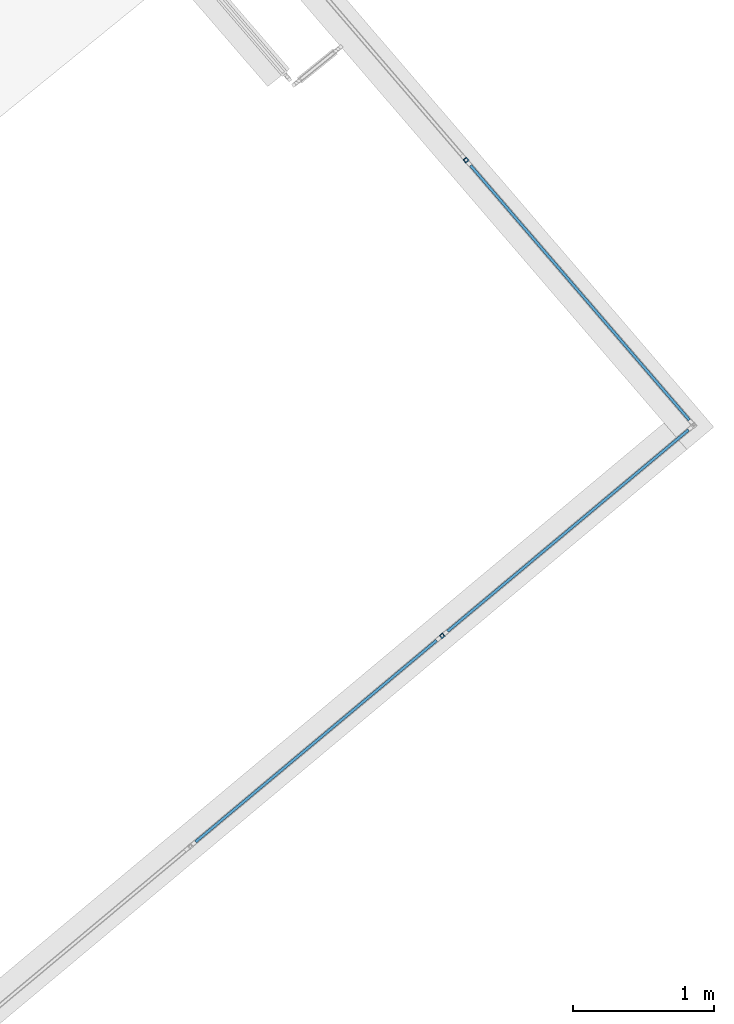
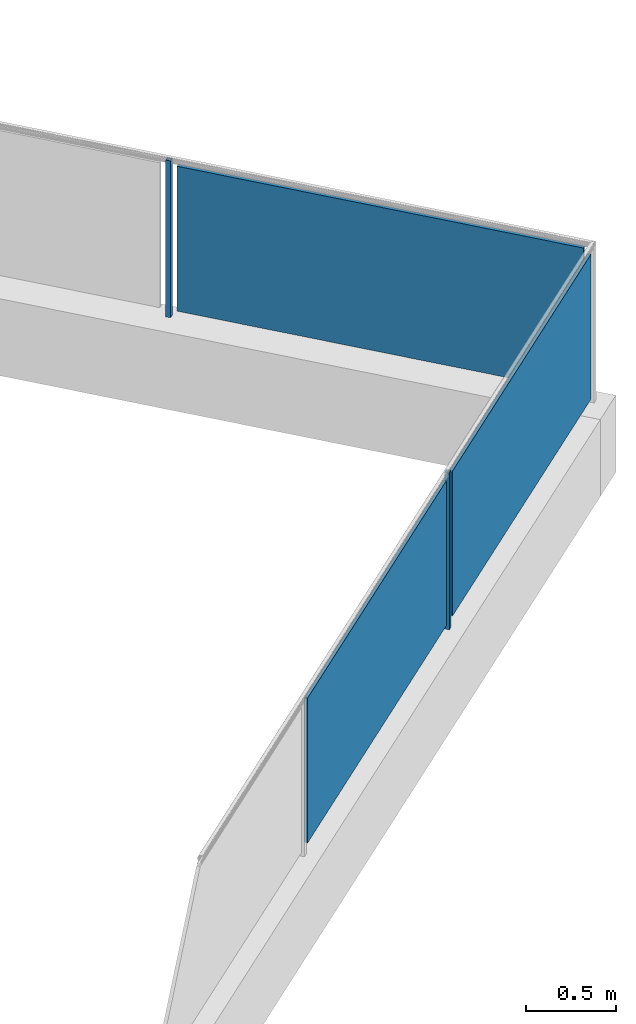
# One storey, part 48 of 75: 5 building element parts, 1 element without a shape of its own.
"""IFC4 building model written with IfcOpenShell, lengths in metres."""

from ifc_helpers import new_model, entity, si_unit, converted_unit, derived_unit, direction, frame, origin_with_axes, place, context, subcontext, project, spatial, polygons, material, type_object, element, aggregate, save


model = new_model("IFC4")

# Units and contexts
model_context = context("Model", 3, precision=1e-05, world=origin_with_axes(), true_north=direction((0.0, 1.0)))
body_context = subcontext(model_context, "Body", "Model", "MODEL_VIEW")
ifc_project = project(units=[si_unit("LENGTHUNIT", "METRE"), si_unit("AREAUNIT", "SQUARE_METRE"), si_unit("VOLUMEUNIT", "CUBIC_METRE"), converted_unit("PLANEANGLEUNIT", "DEGREE", entity("IfcPlaneAngleMeasure", 0.0174532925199), si_unit("PLANEANGLEUNIT", "RADIAN"), dimensions=[0, 0, 0, 0, 0, 0, 0]), converted_unit("TIMEUNIT", "Year", entity("IfcTimeMeasure", 31556926.0), si_unit("TIMEUNIT", "SECOND"), dimensions=[0, 0, 1, 0, 0, 0, 0]), si_unit("MASSUNIT", "GRAM", prefix="KILO"), si_unit("THERMODYNAMICTEMPERATUREUNIT", "DEGREE_CELSIUS"), si_unit("LUMINOUSINTENSITYUNIT", "LUMEN"), si_unit("ENERGYUNIT", "JOULE", prefix="MEGA"), derived_unit("THERMALCONDUCTANCEUNIT", [(si_unit("POWERUNIT", "WATT"), 1), (si_unit("LENGTHUNIT", "METRE"), -1), (si_unit("THERMODYNAMICTEMPERATUREUNIT", "KELVIN"), -1)]), derived_unit("SPECIFICHEATCAPACITYUNIT", [(si_unit("ENERGYUNIT", "JOULE"), 1), (si_unit("MASSUNIT", "GRAM", prefix="KILO"), -1), (si_unit("THERMODYNAMICTEMPERATUREUNIT", "KELVIN"), -1)]), derived_unit("MASSDENSITYUNIT", [(si_unit("MASSUNIT", "GRAM", prefix="KILO"), 1), (si_unit("VOLUMEUNIT", "CUBIC_METRE"), -1)])], contexts=[model_context])

# Site, building, storey
site_placement = place(None, frame((-0.00153261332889, -0.00661245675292, 0.0), z_axis=(0.0, 0.0, 1.0), x_axis=(1.0, 0.0, 0.0)))
site = spatial("IfcSite", under=ifc_project, at=site_placement, Name="Gelände", CompositionType="ELEMENT")
building_placement = place(site_placement, origin_with_axes())
building = spatial("IfcBuilding", under=site, at=building_placement, Name="Gebäude", CompositionType="ELEMENT")
storey_placement = place(building_placement, frame((0.0, 0.0, -0.22), z_axis=(0.0, 0.0, 1.0), x_axis=(1.0, 0.0, 0.0)))
storey = spatial("IfcBuildingStorey", under=building, at=storey_placement, Name="EG", CompositionType="ELEMENT", Elevation=-0.22)

# Railing, building element parts
railing_type = type_object("IfcRailingType", Name="Geländerart", PredefinedType="NOTDEFINED")
railing_placement = place(storey_placement, frame((-12.1608341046, 23.557810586, 0.523948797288), z_axis=(0.0, 0.0, 1.0), x_axis=(1.0, 0.0, 0.0)))
railing = element("IfcRailing", 1, at=railing_placement, inside=storey, type_object=railing_type, Name="Geländer - 001", PredefinedType="NOTDEFINED")
ifc_material_1 = material(Name="Zaun")
building_element_part_1_placement = place(railing_placement, origin_with_axes())
building_element_part_1 = element("IfcBuildingElementPart", 2, at=building_element_part_1_placement, material=ifc_material_1, Name="Zaun", PredefinedType="NOTDEFINED", context=body_context, shape_type="Tessellation", body=[
    polygons([(31.8310002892, -6.97001098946, 0.05), (30.1168198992, -8.40261713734, 0.05), (30.1168198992, -8.40261713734, 1.03), (31.8310002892, -6.97001098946, 1.03), (30.1296453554, -8.41796339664, 0.05), (31.8438257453, -6.98535724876, 0.05), (30.1296453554, -8.41796339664, 1.03), (31.8438257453, -6.98535724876, 1.03)], [[[1, 2, 3, 4]], [[5, 2, 1, 6]], [[7, 3, 2, 5]], [[4, 3, 7, 8]], [[1, 4, 8, 6]], [[7, 5, 6, 8]]], closed=True),
])
ifc_material_2 = material(Name="Aluminium")
building_element_part_2_placement = place(railing_placement, origin_with_axes())
building_element_part_2 = element("IfcBuildingElementPart", 3, at=building_element_part_2_placement, material=ifc_material_2, Name="Aluminium", PredefinedType="NOTDEFINED", context=body_context, shape_type="Tessellation", body=[
    polygons([(31.8969074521, -6.9475110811, 0.0), (31.8776692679, -6.92449169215, 0.0), (31.8776692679, -6.92449169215, 1.06), (31.8969074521, -6.9475110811, 1.06), (31.8738880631, -6.96674926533, 0.0), (31.8546498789, -6.94372987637, 0.0), (31.8898645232, -6.94688088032, 0.0), (31.8770390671, -6.93153462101, 0.0), (31.8616928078, -6.94436007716, 0.0), (31.8745182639, -6.95970633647, 0.0), (31.8546498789, -6.94372987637, 1.06), (31.8738880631, -6.96674926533, 1.06), (31.8898645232, -6.94688088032, 1.06), (31.8745182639, -6.95970633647, 1.06), (31.8616928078, -6.94436007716, 1.06), (31.8770390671, -6.93153462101, 1.06)], [[[1, 2, 3, 4]], [[1, 5, 6, 2], [7, 8, 9, 10]], [[2, 6, 11, 3]], [[4, 3, 11, 12], [13, 14, 15, 16]], [[5, 1, 4, 12]], [[6, 5, 12, 11]], [[8, 7, 13, 16]], [[9, 8, 16, 15]], [[10, 9, 15, 14]], [[7, 10, 14, 13]]], closed=True),
])
building_element_part_3_placement = place(railing_placement, origin_with_axes())
building_element_part_3 = element("IfcBuildingElementPart", 4, at=building_element_part_3_placement, material=ifc_material_1, Name="Zaun", PredefinedType="NOTDEFINED", context=body_context, shape_type="Tessellation", body=[
    polygons([(33.6219119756, -5.47327756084, 0.05), (31.9077315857, -6.90588370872, 0.05), (31.9077315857, -6.90588370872, 1.03), (33.6219119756, -5.47327756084, 1.03), (31.9205570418, -6.92122996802, 0.05), (33.6347374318, -5.48862382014, 0.05), (31.9205570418, -6.92122996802, 1.03), (33.6347374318, -5.48862382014, 1.03)], [[[1, 2, 3, 4]], [[5, 2, 1, 6]], [[7, 3, 2, 5]], [[4, 3, 7, 8]], [[1, 4, 8, 6]], [[7, 5, 6, 8]]], closed=True),
])
building_element_part_4_placement = place(railing_placement, origin_with_axes())
building_element_part_4 = element("IfcBuildingElementPart", 5, at=building_element_part_4_placement, material=ifc_material_1, Name="Zaun", PredefinedType="NOTDEFINED", context=body_context, shape_type="Tessellation", body=[
    polygons([(32.0706981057, -3.60677800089, 0.05), (33.6265203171, -5.41748054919, 0.05), (33.6265203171, -5.41748054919, 1.03), (32.0706981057, -3.60677800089, 1.03), (33.6416897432, -5.40444642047, 0.05), (32.0858675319, -3.59374387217, 0.05), (33.6416897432, -5.40444642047, 1.03), (32.0858675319, -3.59374387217, 1.03)], [[[1, 2, 3, 4]], [[5, 2, 1, 6]], [[7, 3, 2, 5]], [[4, 3, 7, 8]], [[1, 4, 8, 6]], [[7, 5, 6, 8]]], closed=True),
])
building_element_part_5_placement = place(railing_placement, origin_with_axes())
building_element_part_5 = element("IfcBuildingElementPart", 6, at=building_element_part_5_placement, material=ifc_material_2, Name="Aluminium", PredefinedType="NOTDEFINED", context=body_context, shape_type="Tessellation", body=[
    polygons([(32.0472989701, -3.54118470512, 0.0), (32.0245448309, -3.5607358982, 0.0), (32.0245448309, -3.5607358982, 1.06), (32.0472989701, -3.54118470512, 1.06), (32.0668501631, -3.56393884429, 0.0), (32.044096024, -3.58349003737, 0.0), (32.0467651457, -3.54823559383, 0.0), (32.0315957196, -3.56126972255, 0.0), (32.0446298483, -3.57643914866, 0.0), (32.0597992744, -3.56340501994, 0.0), (32.044096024, -3.58349003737, 1.06), (32.0668501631, -3.56393884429, 1.06), (32.0467651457, -3.54823559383, 1.06), (32.0597992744, -3.56340501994, 1.06), (32.0446298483, -3.57643914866, 1.06), (32.0315957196, -3.56126972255, 1.06)], [[[1, 2, 3, 4]], [[1, 5, 6, 2], [7, 8, 9, 10]], [[2, 6, 11, 3]], [[4, 3, 11, 12], [13, 14, 15, 16]], [[5, 1, 4, 12]], [[6, 5, 12, 11]], [[8, 7, 13, 16]], [[9, 8, 16, 15]], [[10, 9, 15, 14]], [[7, 10, 14, 13]]], closed=True),
])
aggregate(railing, [building_element_part_1, building_element_part_2, building_element_part_3, building_element_part_4, building_element_part_5])

save(model, "model.ifc")
